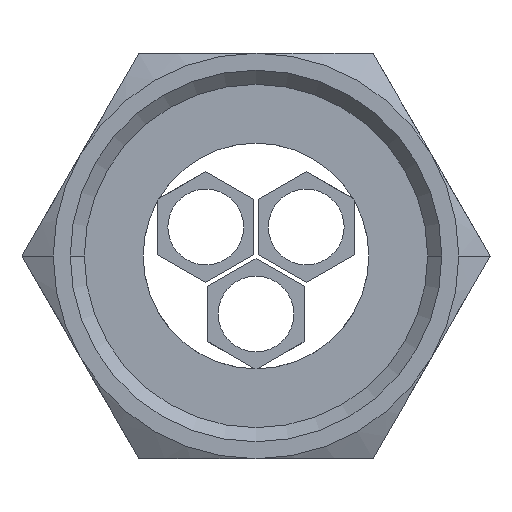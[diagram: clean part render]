
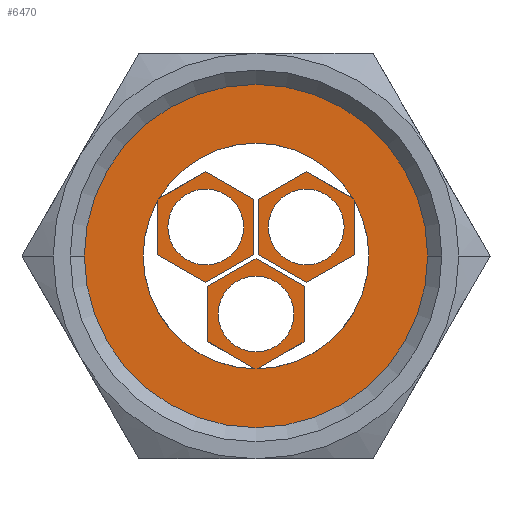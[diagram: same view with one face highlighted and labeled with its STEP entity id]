
A CAD part, left-side view. The second image highlights one B-rep face of the part: STEP entity #6470.
In plain terms, the highlighted planar face has unit normal (-1, 0, 0).
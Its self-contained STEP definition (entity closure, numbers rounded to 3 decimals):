
#360=CARTESIAN_POINT('',(610.001,110.61,
9.584));
#370=VERTEX_POINT('',#360);
#400=CARTESIAN_POINT('',(610.001,-299.397,
246.301));
#410=DIRECTION('',(0.,-0.866,0.5));
#420=VECTOR('',#410,1.);
#430=LINE('',#400,#420);
#440=CARTESIAN_POINT('',(610.001,115.929,
6.513));
#450=VERTEX_POINT('',#440);
#460=EDGE_CURVE('',#450,#370,#430,.T.);
#4200=CARTESIAN_POINT('',(610.001,87.872,0.));
#4210=DIRECTION('',(-1.,0.,0.));
#4220=DIRECTION('',(0.,1.,0.));
#4230=AXIS2_PLACEMENT_3D('',#4200,#4210,#4220);
#4240=PLANE('',#4230);
#4250=CARTESIAN_POINT('',(610.001,104.91,0.));
#4260=DIRECTION('',(1.,0.,0.));
#4270=DIRECTION('',(0.,-1.,0.));
#4280=AXIS2_PLACEMENT_3D('',#4250,#4260,#4270);
#4290=CIRCLE('',#4280,21.075);
#4300=CARTESIAN_POINT('',(610.001,83.835,
0.));
#4310=VERTEX_POINT('',#4300);
#4320=CARTESIAN_POINT('',(610.001,125.985,0.));
#4330=VERTEX_POINT('',#4320);
#4340=EDGE_CURVE('',#4310,#4330,#4290,.T.);
#4350=ORIENTED_EDGE('',*,*,#4340,.F.);
#4360=EDGE_CURVE('',#4330,#4310,#4290,.T.);
#4370=ORIENTED_EDGE('',*,*,#4360,.F.);
#4380=EDGE_LOOP('',(#4370,#4350));
#4390=FACE_OUTER_BOUND('',#4380,.T.);
#4400=CARTESIAN_POINT('',(610.001,110.61,
3.291));
#4410=DIRECTION('',(1.,0.,0.));
#4420=DIRECTION('',(0.,-0.5,-0.866));
#4430=AXIS2_PLACEMENT_3D('',#4400,#4410,#4420);
#4440=CIRCLE('',#4430,4.3);
#4450=CARTESIAN_POINT('',(610.001,108.46,
-0.433));
#4460=VERTEX_POINT('',#4450);
#4470=CARTESIAN_POINT('',(610.001,112.76,
7.015));
#4480=VERTEX_POINT('',#4470);
#4490=EDGE_CURVE('',#4460,#4480,#4440,.T.);
#4500=ORIENTED_EDGE('',*,*,#4490,.T.);
#4510=EDGE_CURVE('',#4480,#4460,#4440,.T.);
#4520=ORIENTED_EDGE('',*,*,#4510,.T.);
#4530=EDGE_LOOP('',(#4520,#4500));
#4540=FACE_BOUND('',#4530,.T.);
#4550=CARTESIAN_POINT('',(610.001,104.91,0.));
#4560=DIRECTION('',(1.,0.,0.));
#4570=DIRECTION('',(0.,1.,0.));
#4580=AXIS2_PLACEMENT_3D('',#4550,#4560,#4570);
#4590=CIRCLE('',#4580,12.8);
#4600=CARTESIAN_POINT('',(610.001,117.71,0.));
#4610=VERTEX_POINT('',#4600);
#4620=CARTESIAN_POINT('',(610.001,116.06,
6.286));
#4630=VERTEX_POINT('',#4620);
#4640=EDGE_CURVE('',#4610,#4630,#4590,.T.);
#4650=ORIENTED_EDGE('',*,*,#4640,.T.);
#4660=CARTESIAN_POINT('',(610.001,105.04,
-12.799));
#4670=VERTEX_POINT('',#4660);
#4680=EDGE_CURVE('',#4670,#4610,#4590,.T.);
#4690=ORIENTED_EDGE('',*,*,#4680,.T.);
#4700=CARTESIAN_POINT('',(610.001,-299.397,
-246.301));
#4710=DIRECTION('',(0.,0.866,0.5));
#4720=VECTOR('',#4710,1.);
#4730=LINE('',#4700,#4720);
#4740=CARTESIAN_POINT('',(610.001,110.36,
-9.728));
#4750=VERTEX_POINT('',#4740);
#4760=EDGE_CURVE('',#4670,#4750,#4730,.T.);
#4770=ORIENTED_EDGE('',*,*,#4760,.F.);
#4780=CARTESIAN_POINT('',(610.001,110.36,0.));
#4790=DIRECTION('',(0.,0.,1.));
#4800=VECTOR('',#4790,1.);
#4810=LINE('',#4780,#4800);
#4820=CARTESIAN_POINT('',(610.001,110.36,
-3.435));
#4830=VERTEX_POINT('',#4820);
#4840=EDGE_CURVE('',#4750,#4830,#4810,.T.);
#4850=ORIENTED_EDGE('',*,*,#4840,.F.);
#4860=CARTESIAN_POINT('',(610.001,-299.397,
233.138));
#4870=DIRECTION('',(0.,-0.866,0.5));
#4880=VECTOR('',#4870,1.);
#4890=LINE('',#4860,#4880);
#4900=CARTESIAN_POINT('',(610.001,104.91,
-0.289));
#4910=VERTEX_POINT('',#4900);
#4920=EDGE_CURVE('',#4830,#4910,#4890,.T.);
#4930=ORIENTED_EDGE('',*,*,#4920,.F.);
#4940=CARTESIAN_POINT('',(610.001,-299.397,
-233.715));
#4950=DIRECTION('',(0.,-0.866,-0.5));
#4960=VECTOR('',#4950,1.);
#4970=LINE('',#4940,#4960);
#4980=CARTESIAN_POINT('',(610.001,99.46,
-3.435));
#4990=VERTEX_POINT('',#4980);
#5000=EDGE_CURVE('',#4910,#4990,#4970,.T.);
#5010=ORIENTED_EDGE('',*,*,#5000,.F.);
#5020=CARTESIAN_POINT('',(610.001,99.46,0.));
#5030=DIRECTION('',(0.,0.,-1.));
#5040=VECTOR('',#5030,1.);
#5050=LINE('',#5020,#5040);
#5060=CARTESIAN_POINT('',(610.001,99.46,
-9.728));
#5070=VERTEX_POINT('',#5060);
#5080=EDGE_CURVE('',#4990,#5070,#5050,.T.);
#5090=ORIENTED_EDGE('',*,*,#5080,.F.);
#5100=CARTESIAN_POINT('',(610.001,-299.397,
220.551));
#5110=DIRECTION('',(0.,0.866,-0.5));
#5120=VECTOR('',#5110,1.);
#5130=LINE('',#5100,#5120);
#5140=CARTESIAN_POINT('',(610.001,104.779,
-12.799));
#5150=VERTEX_POINT('',#5140);
#5160=EDGE_CURVE('',#5070,#5150,#5130,.T.);
#5170=ORIENTED_EDGE('',*,*,#5160,.F.);
#5180=CARTESIAN_POINT('',(610.001,92.11,
0.));
#5190=VERTEX_POINT('',#5180);
#5200=EDGE_CURVE('',#5190,#5150,#4590,.T.);
#5210=ORIENTED_EDGE('',*,*,#5200,.T.);
#5220=CARTESIAN_POINT('',(610.001,93.76,
6.286));
#5230=VERTEX_POINT('',#5220);
#5240=EDGE_CURVE('',#5230,#5190,#4590,.T.);
#5250=ORIENTED_EDGE('',*,*,#5240,.T.);
#5260=CARTESIAN_POINT('',(610.001,93.76,0.));
#5270=DIRECTION('',(0.,0.,-1.));
#5280=VECTOR('',#5270,1.);
#5290=LINE('',#5260,#5280);
#5300=CARTESIAN_POINT('',(610.001,93.76,
0.144));
#5310=VERTEX_POINT('',#5300);
#5320=EDGE_CURVE('',#5230,#5310,#5290,.T.);
#5330=ORIENTED_EDGE('',*,*,#5320,.F.);
#5340=CARTESIAN_POINT('',(610.001,-299.397,
227.133));
#5350=DIRECTION('',(0.,0.866,-0.5));
#5360=VECTOR('',#5350,1.);
#5370=LINE('',#5340,#5360);
#5380=CARTESIAN_POINT('',(610.001,99.21,
-3.002));
#5390=VERTEX_POINT('',#5380);
#5400=EDGE_CURVE('',#5310,#5390,#5370,.T.);
#5410=ORIENTED_EDGE('',*,*,#5400,.F.);
#5420=CARTESIAN_POINT('',(610.001,-299.397,
-233.138));
#5430=DIRECTION('',(0.,0.866,0.5));
#5440=VECTOR('',#5430,1.);
#5450=LINE('',#5420,#5440);
#5460=CARTESIAN_POINT('',(610.001,104.66,
0.144));
#5470=VERTEX_POINT('',#5460);
#5480=EDGE_CURVE('',#5390,#5470,#5450,.T.);
#5490=ORIENTED_EDGE('',*,*,#5480,.F.);
#5500=CARTESIAN_POINT('',(610.001,104.66,0.));
#5510=DIRECTION('',(0.,0.,1.));
#5520=VECTOR('',#5510,1.);
#5530=LINE('',#5500,#5520);
#5540=CARTESIAN_POINT('',(610.001,104.66,
6.437));
#5550=VERTEX_POINT('',#5540);
#5560=EDGE_CURVE('',#5470,#5550,#5530,.T.);
#5570=ORIENTED_EDGE('',*,*,#5560,.F.);
#5580=CARTESIAN_POINT('',(610.001,-299.397,
239.719));
#5590=DIRECTION('',(0.,-0.866,0.5));
#5600=VECTOR('',#5590,1.);
#5610=LINE('',#5580,#5600);
#5620=CARTESIAN_POINT('',(610.001,99.21,
9.584));
#5630=VERTEX_POINT('',#5620);
#5640=EDGE_CURVE('',#5550,#5630,#5610,.T.);
#5650=ORIENTED_EDGE('',*,*,#5640,.F.);
#5660=CARTESIAN_POINT('',(610.001,-299.397,
-220.551));
#5670=DIRECTION('',(0.,-0.866,-0.5));
#5680=VECTOR('',#5670,1.);
#5690=LINE('',#5660,#5680);
#5700=CARTESIAN_POINT('',(610.001,93.89,
6.513));
#5710=VERTEX_POINT('',#5700);
#5720=EDGE_CURVE('',#5630,#5710,#5690,.T.);
#5730=ORIENTED_EDGE('',*,*,#5720,.F.);
#5740=EDGE_CURVE('',#450,#5710,#4590,.T.);
#5750=ORIENTED_EDGE('',*,*,#5740,.T.);
#5760=ORIENTED_EDGE('',*,*,#460,.F.);
#5770=CARTESIAN_POINT('',(610.001,-299.397,
-227.133));
#5780=DIRECTION('',(0.,-0.866,-0.5));
#5790=VECTOR('',#5780,1.);
#5800=LINE('',#5770,#5790);
#5810=CARTESIAN_POINT('',(610.001,105.16,
6.437));
#5820=VERTEX_POINT('',#5810);
#5830=EDGE_CURVE('',#370,#5820,#5800,.T.);
#5840=ORIENTED_EDGE('',*,*,#5830,.F.);
#5850=CARTESIAN_POINT('',(610.001,105.16,0.));
#5860=DIRECTION('',(0.,0.,-1.));
#5870=VECTOR('',#5860,1.);
#5880=LINE('',#5850,#5870);
#5890=CARTESIAN_POINT('',(610.001,105.16,
0.144));
#5900=VERTEX_POINT('',#5890);
#5910=EDGE_CURVE('',#5820,#5900,#5880,.T.);
#5920=ORIENTED_EDGE('',*,*,#5910,.F.);
#5930=CARTESIAN_POINT('',(610.001,-299.397,
233.715));
#5940=DIRECTION('',(0.,0.866,-0.5));
#5950=VECTOR('',#5940,1.);
#5960=LINE('',#5930,#5950);
#5970=CARTESIAN_POINT('',(610.001,110.61,
-3.002));
#5980=VERTEX_POINT('',#5970);
#5990=EDGE_CURVE('',#5900,#5980,#5960,.T.);
#6000=ORIENTED_EDGE('',*,*,#5990,.F.);
#6010=CARTESIAN_POINT('',(610.001,-299.397,
-239.719));
#6020=DIRECTION('',(0.,0.866,0.5));
#6030=VECTOR('',#6020,1.);
#6040=LINE('',#6010,#6030);
#6050=CARTESIAN_POINT('',(610.001,116.06,
0.144));
#6060=VERTEX_POINT('',#6050);
#6070=EDGE_CURVE('',#5980,#6060,#6040,.T.);
#6080=ORIENTED_EDGE('',*,*,#6070,.F.);
#6090=CARTESIAN_POINT('',(610.001,116.06,0.));
#6100=DIRECTION('',(0.,0.,1.));
#6110=VECTOR('',#6100,1.);
#6120=LINE('',#6090,#6110);
#6130=EDGE_CURVE('',#6060,#4630,#6120,.T.);
#6140=ORIENTED_EDGE('',*,*,#6130,.F.);
#6150=EDGE_LOOP('',(#6140,#6080,#6000,#5920,#5840,#5760,#5750,#5730,
#5650,#5570,#5490,#5410,#5330,#5250,#5210,#5170,#5090,#5010,#4930,#4850,
#4770,#4690,#4650));
#6160=FACE_BOUND('',#6150,.T.);
#6170=CARTESIAN_POINT('',(610.001,99.21,
3.291));
#6180=DIRECTION('',(1.,0.,0.));
#6190=DIRECTION('',(0.,1.,0.));
#6200=AXIS2_PLACEMENT_3D('',#6170,#6180,#6190);
#6210=CIRCLE('',#6200,4.3);
#6220=CARTESIAN_POINT('',(610.001,103.51,
3.291));
#6230=VERTEX_POINT('',#6220);
#6240=CARTESIAN_POINT('',(610.001,94.91,
3.291));
#6250=VERTEX_POINT('',#6240);
#6260=EDGE_CURVE('',#6230,#6250,#6210,.T.);
#6270=ORIENTED_EDGE('',*,*,#6260,.T.);
#6280=EDGE_CURVE('',#6250,#6230,#6210,.T.);
#6290=ORIENTED_EDGE('',*,*,#6280,.T.);
#6300=EDGE_LOOP('',(#6290,#6270));
#6310=FACE_BOUND('',#6300,.T.);
#6320=CARTESIAN_POINT('',(610.001,104.91,
-6.582));
#6330=DIRECTION('',(1.,0.,0.));
#6340=DIRECTION('',(0.,-0.5,0.866));
#6350=AXIS2_PLACEMENT_3D('',#6320,#6330,#6340);
#6360=CIRCLE('',#6350,4.3);
#6370=CARTESIAN_POINT('',(610.001,102.76,
-2.858));
#6380=VERTEX_POINT('',#6370);
#6390=CARTESIAN_POINT('',(610.001,107.06,
-10.306));
#6400=VERTEX_POINT('',#6390);
#6410=EDGE_CURVE('',#6380,#6400,#6360,.T.);
#6420=ORIENTED_EDGE('',*,*,#6410,.T.);
#6430=EDGE_CURVE('',#6400,#6380,#6360,.T.);
#6440=ORIENTED_EDGE('',*,*,#6430,.T.);
#6450=EDGE_LOOP('',(#6440,#6420));
#6460=FACE_BOUND('',#6450,.T.);
#6470=ADVANCED_FACE('',(#4390,#4540,#6160,#6310,#6460),#4240,.T.);
